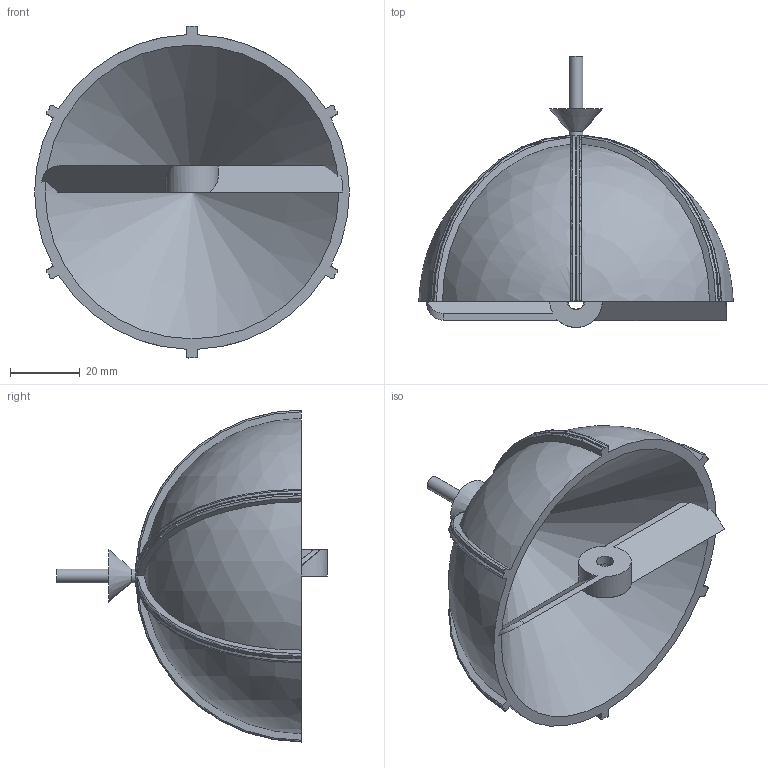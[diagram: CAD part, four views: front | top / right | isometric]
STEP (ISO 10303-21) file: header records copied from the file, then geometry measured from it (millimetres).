
FILE_DESCRIPTION(/* description */ ('Alibre Inc.'),/* implementation_level */ '2;1');
FILE_NAME(/* name */ 'export0',/* time_stamp */ '2010-04-21T14:00:41+02:00',/* author */ (''),/* organization */ (''),/* preprocessor_version */ 'ST-DEVELOPER v10',/* originating_system */ 'Alibre',/* authorisation */ '');
FILE_SCHEMA (('ALIBRE_SCHEMA','CONFIG_CONTROL_DESIGN'));
Length unit declared in the file: centimetre
Products named in the file (4): ID_1
Bounding box: 90 x 77.5 x 94.95 mm (x, y, z)
Volume: 71278.8 mm3; surface area: 50137.5 mm2
Topology: 3 solids, 6 shells, 95 faces, 240 edges, 153 vertices
Faces by surface type: torus 30, plane 25, cone 20, cylinder 13, sphere 7
Full cylindrical faces by diameter (mm): 4 x2, 4.5 x1, 5 x1, 11.589 x1, 29.393 x1, 33.393 x1, 55.397 x1, 59.397 x1
Entity records: 6479 total; most frequent: CARTESIAN_POINT 1732, ORIENTED_EDGE 440, DIRECTION 425, PERSISTANTTOPOLOGYATTRIBUTE 290, EDGE_CURVE 220, REFERENCEDEPENDENTUV 180, CONSTRAINTPAIRUV 163, AXIS2_PLACEMENT_3D 161
